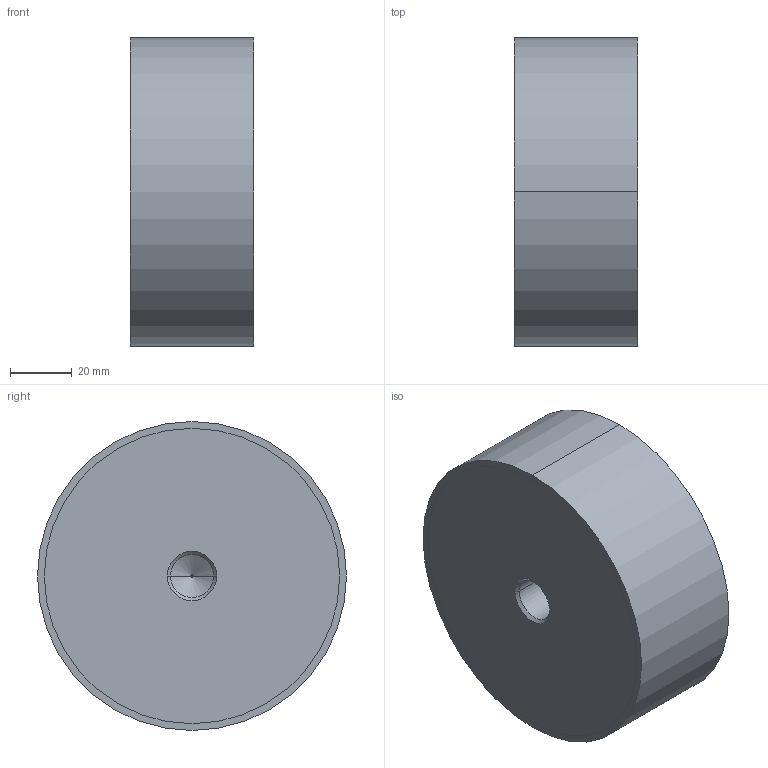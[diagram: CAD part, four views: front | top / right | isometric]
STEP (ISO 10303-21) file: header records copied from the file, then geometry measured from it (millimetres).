
FILE_DESCRIPTION (( 'STEP AP214' ), '1' );
FILE_NAME ('451-100-40-M16-EE-55.step', '2020-03-05T09:09:16', ( '' ), ( '' ), 'SwSTEP 2.0', 'SolidWorks 2019', '' );
FILE_SCHEMA (( 'AUTOMOTIVE_DESIGN' ));
Length unit declared in the file: millimetre
Products named in the file (1): 451-100-40-M16-EE-55
Bounding box: 40 x 100 x 100 mm (x, y, z)
Volume: 308616 mm3; surface area: 29688.9 mm2
Topology: 1 solids, 1 shells, 22 faces, 44 edges, 26 vertices
Faces by surface type: cylinder 10, cone 8, plane 4
Entity records: 700 total; most frequent: DIRECTION 116, CARTESIAN_POINT 93, ORIENTED_EDGE 88, AXIS2_PLACEMENT_3D 49, EDGE_CURVE 44, VERTEX_POINT 26, CIRCLE 26, EDGE_LOOP 26
